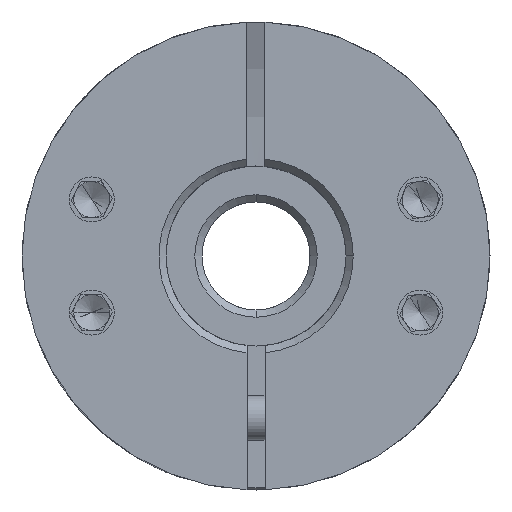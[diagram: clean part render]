
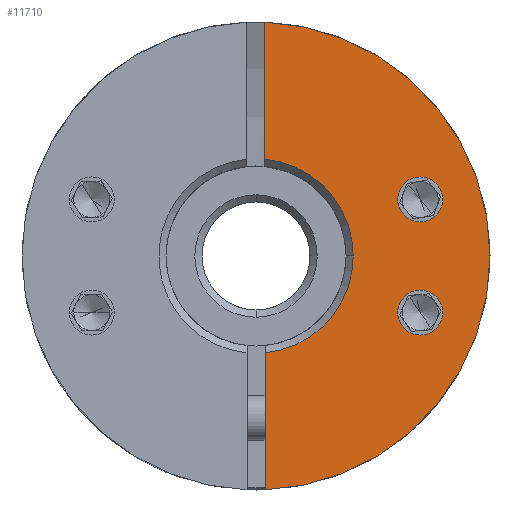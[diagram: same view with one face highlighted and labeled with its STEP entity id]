
A CAD part, front view. The second image highlights one B-rep face of the part: STEP entity #11710.
In plain terms, the highlighted planar face has unit normal (0, -1, 0).
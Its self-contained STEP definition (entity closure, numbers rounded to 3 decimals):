
#424 = EDGE_CURVE ( 'NONE', #9692, #5196, #11781, .T. ) ;
#722 = EDGE_LOOP ( 'NONE', ( #15608, #7942 ) ) ;
#818 = VERTEX_POINT ( 'NONE', #4470 ) ;
#1156 = CARTESIAN_POINT ( 'NONE',  ( 9.63, -26.289, -3.142 ) ) ;
#1981 = CIRCLE ( 'NONE', #3890, 1.25 ) ;
#2299 = CIRCLE ( 'NONE', #6796, 1.25 ) ;
#2662 = DIRECTION ( 'NONE',  ( 1., 0., 0. ) ) ;
#2903 = AXIS2_PLACEMENT_3D ( 'NONE', #4693, #17251, #22426 ) ;
#3209 = CARTESIAN_POINT ( 'NONE',  ( 14.755, -26.289, 0. ) ) ;
#3296 = CARTESIAN_POINT ( 'NONE',  ( 1.755, -26.289, 0. ) ) ;
#3890 = AXIS2_PLACEMENT_3D ( 'NONE', #5255, #17731, #16199 ) ;
#4131 = ORIENTED_EDGE ( 'NONE', *, *, #12276, .T. ) ;
#4470 = CARTESIAN_POINT ( 'NONE',  ( 9.63, -26.289, 3.142 ) ) ;
#4693 = CARTESIAN_POINT ( 'NONE',  ( 10.88, -26.289, -3.142 ) ) ;
#4891 = EDGE_CURVE ( 'NONE', #13849, #12655, #22004, .T. ) ;
#4953 = CARTESIAN_POINT ( 'NONE',  ( 2.255, -26.289, -5.377 ) ) ;
#5196 = VERTEX_POINT ( 'NONE', #22145 ) ;
#5207 = AXIS2_PLACEMENT_3D ( 'NONE', #15557, #17258, #6580 ) ;
#5255 = CARTESIAN_POINT ( 'NONE',  ( 10.88, -26.289, 3.142 ) ) ;
#5256 = DIRECTION ( 'NONE',  ( 0., 1., 0. ) ) ;
#5292 = CARTESIAN_POINT ( 'NONE',  ( 12.13, -26.289, 3.142 ) ) ;
#5300 = CARTESIAN_POINT ( 'NONE',  ( 1.755, -26.289, 0. ) ) ;
#5600 = ORIENTED_EDGE ( 'NONE', *, *, #11105, .T. ) ;
#5646 = DIRECTION ( 'NONE',  ( 1., 0., 0. ) ) ;
#5824 = VERTEX_POINT ( 'NONE', #17181 ) ;
#5930 = VERTEX_POINT ( 'NONE', #5292 ) ;
#6049 = DIRECTION ( 'NONE',  ( 0., -1., 0. ) ) ;
#6133 = ORIENTED_EDGE ( 'NONE', *, *, #15134, .T. ) ;
#6279 = DIRECTION ( 'NONE',  ( 1., 0., 0. ) ) ;
#6580 = DIRECTION ( 'NONE',  ( 1., 0., 0. ) ) ;
#6611 = CIRCLE ( 'NONE', #2903, 1.25 ) ;
#6685 = EDGE_LOOP ( 'NONE', ( #6133, #5600 ) ) ;
#6796 = AXIS2_PLACEMENT_3D ( 'NONE', #7166, #5256, #10676 ) ;
#7166 = CARTESIAN_POINT ( 'NONE',  ( 10.88, -26.289, 3.142 ) ) ;
#7942 = ORIENTED_EDGE ( 'NONE', *, *, #11087, .T. ) ;
#8634 = CARTESIAN_POINT ( 'NONE',  ( 2.255, -26.289, -12.99 ) ) ;
#9042 = AXIS2_PLACEMENT_3D ( 'NONE', #22140, #6049, #6279 ) ;
#9692 = VERTEX_POINT ( 'NONE', #20231 ) ;
#10112 = AXIS2_PLACEMENT_3D ( 'NONE', #15403, #17173, #2662 ) ;
#10190 = ORIENTED_EDGE ( 'NONE', *, *, #4891, .T. ) ;
#10676 = DIRECTION ( 'NONE',  ( 1., 0., 0. ) ) ;
#10755 = DIRECTION ( 'NONE',  ( 0., 0., -1. ) ) ;
#11043 = PLANE ( 'NONE',  #22948 ) ;
#11056 = ORIENTED_EDGE ( 'NONE', *, *, #17889, .T. ) ;
#11087 = EDGE_CURVE ( 'NONE', #5930, #818, #1981, .T. ) ;
#11090 = CARTESIAN_POINT ( 'NONE',  ( 12.13, -26.289, -3.142 ) ) ;
#11105 = EDGE_CURVE ( 'NONE', #22743, #12733, #20335, .T. ) ;
#11710 = ADVANCED_FACE ( 'NONE', ( #12602, #23091, #13715 ), #11043, .T. ) ;
#11781 = LINE ( 'NONE', #15185, #13180 ) ;
#12237 = DIRECTION ( 'NONE',  ( 0., -1., 0. ) ) ;
#12276 = EDGE_CURVE ( 'NONE', #19950, #13849, #22205, .T. ) ;
#12602 = FACE_OUTER_BOUND ( 'NONE', #17777, .T. ) ;
#12655 = VERTEX_POINT ( 'NONE', #3209 ) ;
#12733 = VERTEX_POINT ( 'NONE', #1156 ) ;
#13180 = VECTOR ( 'NONE', #22368, 1000. ) ;
#13616 = EDGE_CURVE ( 'NONE', #12655, #9692, #22143, .T. ) ;
#13715 = FACE_BOUND ( 'NONE', #6685, .T. ) ;
#13849 = VERTEX_POINT ( 'NONE', #8634 ) ;
#14238 = VECTOR ( 'NONE', #10755, 1000. ) ;
#14433 = CARTESIAN_POINT ( 'NONE',  ( 10.88, -26.289, -3.142 ) ) ;
#15134 = EDGE_CURVE ( 'NONE', #12733, #22743, #6611, .T. ) ;
#15185 = CARTESIAN_POINT ( 'NONE',  ( 2.255, -26.289, 5. ) ) ;
#15213 = EDGE_CURVE ( 'NONE', #5824, #19950, #21344, .T. ) ;
#15403 = CARTESIAN_POINT ( 'NONE',  ( 1.755, -26.289, 0. ) ) ;
#15432 = ORIENTED_EDGE ( 'NONE', *, *, #424, .T. ) ;
#15557 = CARTESIAN_POINT ( 'NONE',  ( 1.755, -26.289, 0. ) ) ;
#15608 = ORIENTED_EDGE ( 'NONE', *, *, #21582, .T. ) ;
#15947 = DIRECTION ( 'NONE',  ( 1., 0., 0. ) ) ;
#16046 = CARTESIAN_POINT ( 'NONE',  ( 2.255, -26.289, 5. ) ) ;
#16087 = DIRECTION ( 'NONE',  ( 1., 0., 0. ) ) ;
#16199 = DIRECTION ( 'NONE',  ( 1., 0., 0. ) ) ;
#16266 = CIRCLE ( 'NONE', #5207, 5.4 ) ;
#16582 = DIRECTION ( 'NONE',  ( 0., 1., 0. ) ) ;
#16627 = ORIENTED_EDGE ( 'NONE', *, *, #13616, .T. ) ;
#17173 = DIRECTION ( 'NONE',  ( 0., 1., 0. ) ) ;
#17181 = CARTESIAN_POINT ( 'NONE',  ( 7.155, -26.289, 0. ) ) ;
#17251 = DIRECTION ( 'NONE',  ( 0., 1., 0. ) ) ;
#17258 = DIRECTION ( 'NONE',  ( 0., 1., 0. ) ) ;
#17731 = DIRECTION ( 'NONE',  ( 0., 1., 0. ) ) ;
#17777 = EDGE_LOOP ( 'NONE', ( #15432, #11056, #20273, #4131, #10190, #16627 ) ) ;
#17889 = EDGE_CURVE ( 'NONE', #5196, #5824, #16266, .T. ) ;
#19825 = AXIS2_PLACEMENT_3D ( 'NONE', #14433, #16582, #5646 ) ;
#19950 = VERTEX_POINT ( 'NONE', #4953 ) ;
#20231 = CARTESIAN_POINT ( 'NONE',  ( 2.255, -26.289, 12.99 ) ) ;
#20273 = ORIENTED_EDGE ( 'NONE', *, *, #15213, .T. ) ;
#20335 = CIRCLE ( 'NONE', #19825, 1.25 ) ;
#21201 = AXIS2_PLACEMENT_3D ( 'NONE', #3296, #12237, #15947 ) ;
#21338 = DIRECTION ( 'NONE',  ( 0., -1., 0. ) ) ;
#21344 = CIRCLE ( 'NONE', #10112, 5.4 ) ;
#21582 = EDGE_CURVE ( 'NONE', #818, #5930, #2299, .T. ) ;
#22004 = CIRCLE ( 'NONE', #21201, 13. ) ;
#22140 = CARTESIAN_POINT ( 'NONE',  ( 1.755, -26.289, 0. ) ) ;
#22143 = CIRCLE ( 'NONE', #9042, 13. ) ;
#22145 = CARTESIAN_POINT ( 'NONE',  ( 2.255, -26.289, 5.377 ) ) ;
#22205 = LINE ( 'NONE', #16046, #14238 ) ;
#22368 = DIRECTION ( 'NONE',  ( 0., 0., -1. ) ) ;
#22426 = DIRECTION ( 'NONE',  ( 1., 0., 0. ) ) ;
#22743 = VERTEX_POINT ( 'NONE', #11090 ) ;
#22948 = AXIS2_PLACEMENT_3D ( 'NONE', #5300, #21338, #16087 ) ;
#23091 = FACE_BOUND ( 'NONE', #722, .T. ) ;
